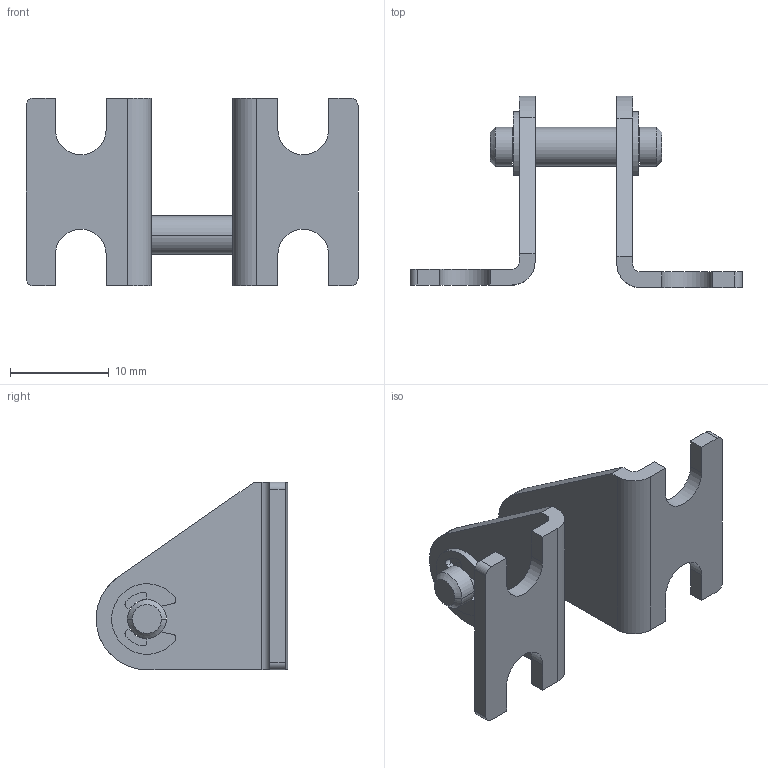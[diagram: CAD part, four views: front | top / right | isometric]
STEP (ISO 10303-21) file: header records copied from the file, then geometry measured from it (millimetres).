
FILE_DESCRIPTION((''),'2;1');
FILE_NAME('M129002_ASM','2019-01-23T17:57:58',('MeFernandez'),('ASCO Numatics'),'CREO PARAMETRIC BY PTC INC, 2018190','CREO PARAMETRIC BY PTC INC, 2018190','');
FILE_SCHEMA(('AUTOMOTIVE_DESIGN_CC2 { 1 2 10303 214 -1 1 5 2 }'));
Length unit declared in the file: inch
Products named in the file (5): M031002; M029002R; M029002L; M032002; M129002_ASM
Assembly tree (5 placements, depth 2):
  M129002_ASM
    M031002
    M029002R
    M029002L
    M032002  x2
Bounding box: 33.71 x 19.45 x 19.05 mm (x, y, z)
Volume: 1511.8 mm3; surface area: 2370.5 mm2
Topology: 5 solids, 5 shells, 106 faces, 272 edges, 180 vertices
Faces by surface type: cylinder 52, plane 50, cone 4
Entity records: 3461 total; most frequent: DIRECTION 494, CARTESIAN_POINT 458, ORIENTED_EDGE 436, PRESENTATION_STYLE_ASSIGNMENT 222, STYLED_ITEM 222, CURVE_STYLE 218, EDGE_CURVE 218, AXIS2_PLACEMENT_3D 180
